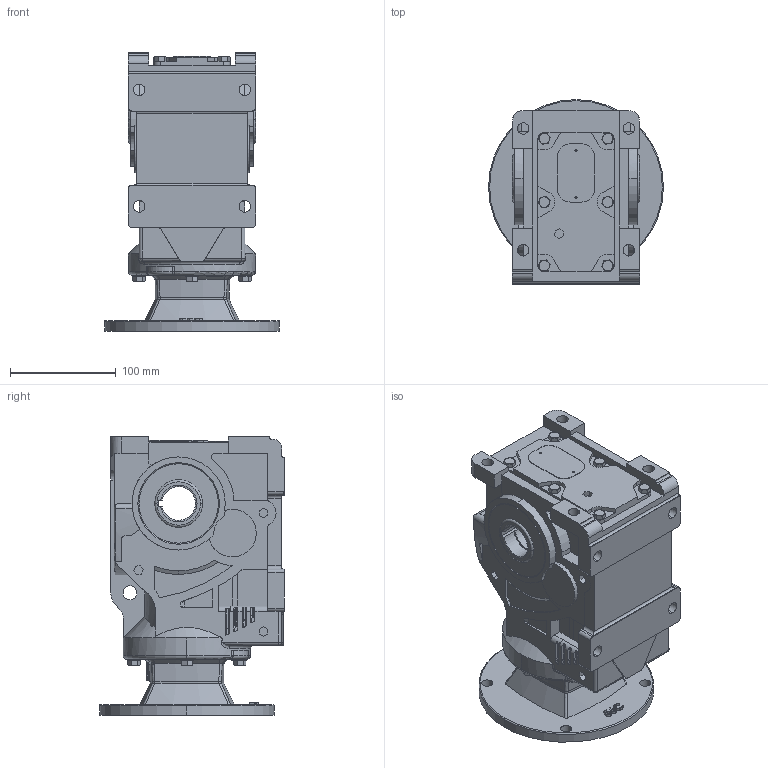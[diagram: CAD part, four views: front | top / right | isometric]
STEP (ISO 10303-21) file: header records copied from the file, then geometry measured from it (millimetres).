
FILE_DESCRIPTION (( 'STEP AP203' ), '1' );
FILE_NAME ('KHN37-56C.STEP', '2022-04-07T02:38:14', ( 'user1' ), ( '' ), 'SwSTEP 2.0', 'SolidWorks 2012', '' );
FILE_SCHEMA (( 'CONFIG_CONTROL_DESIGN' ));
Length unit declared in the file: millimetre
Products named in the file (1): KHN37-56C
Bounding box: 165.1 x 174.75 x 263 mm (x, y, z)
Volume: 3283043.9 mm3; surface area: 250182.3 mm2
Topology: 1 solids, 1 shells, 1014 faces, 2665 edges, 1711 vertices
Faces by surface type: plane 473, cylinder 273, bspline 142, cone 73, torus 27, sphere 26
Entity records: 37825 total; most frequent: CARTESIAN_POINT 13730, ORIENTED_EDGE 5314, DIRECTION 4556, EDGE_CURVE 2657, VERTEX_POINT 1711, AXIS2_PLACEMENT_3D 1570, LINE 1416, VECTOR 1416
